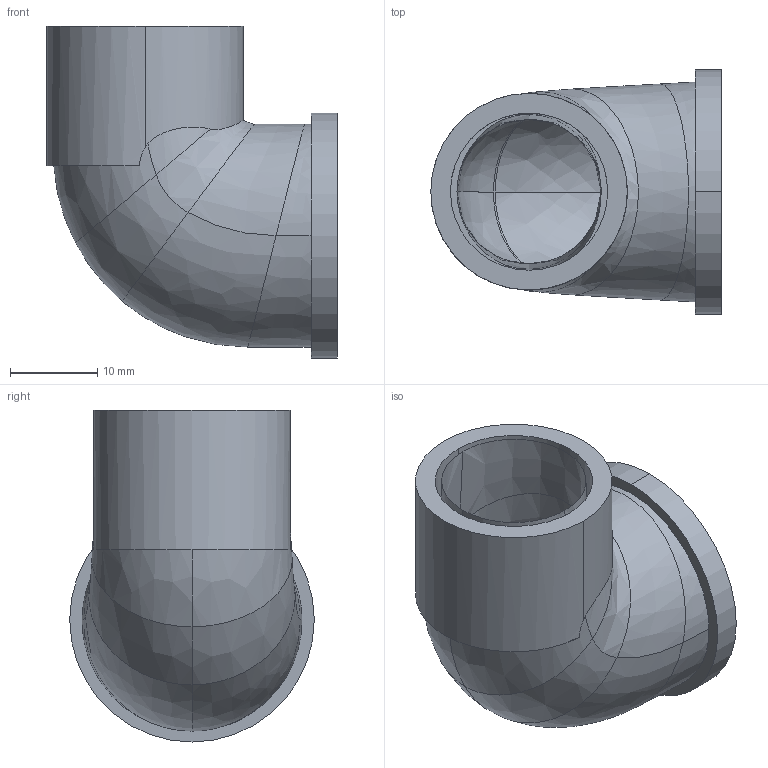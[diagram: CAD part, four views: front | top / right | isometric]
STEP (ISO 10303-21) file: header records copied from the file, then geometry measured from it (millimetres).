
FILE_DESCRIPTION (( 'STEP AP203' ), '1' );
FILE_NAME ('4090g-18x1-2.STEP', '2024-01-27T00:40:30', ( '' ), ( '' ), 'SwSTEP 2.0', 'SolidWorks 2018', '' );
FILE_SCHEMA (( 'CONFIG_CONTROL_DESIGN' ));
Length unit declared in the file: millimetre
Products named in the file (1): 4090g-18x1-2
Bounding box: 33.25 x 28 x 38 mm (x, y, z)
Surface area: 9064.2 mm2 (no closed solid volume)
Topology: 0 solids, 2 shells, 71 faces, 175 edges, 107 vertices
Faces by surface type: bspline 43, cylinder 18, plane 8, cone 2
Entity records: 6791 total; most frequent: CARTESIAN_POINT 5430, ORIENTED_EDGE 344, EDGE_CURVE 175, B_SPLINE_CURVE_WITH_KNOTS 125, DIRECTION 121, VERTEX_POINT 107, EDGE_LOOP 74, FACE_OUTER_BOUND 71
